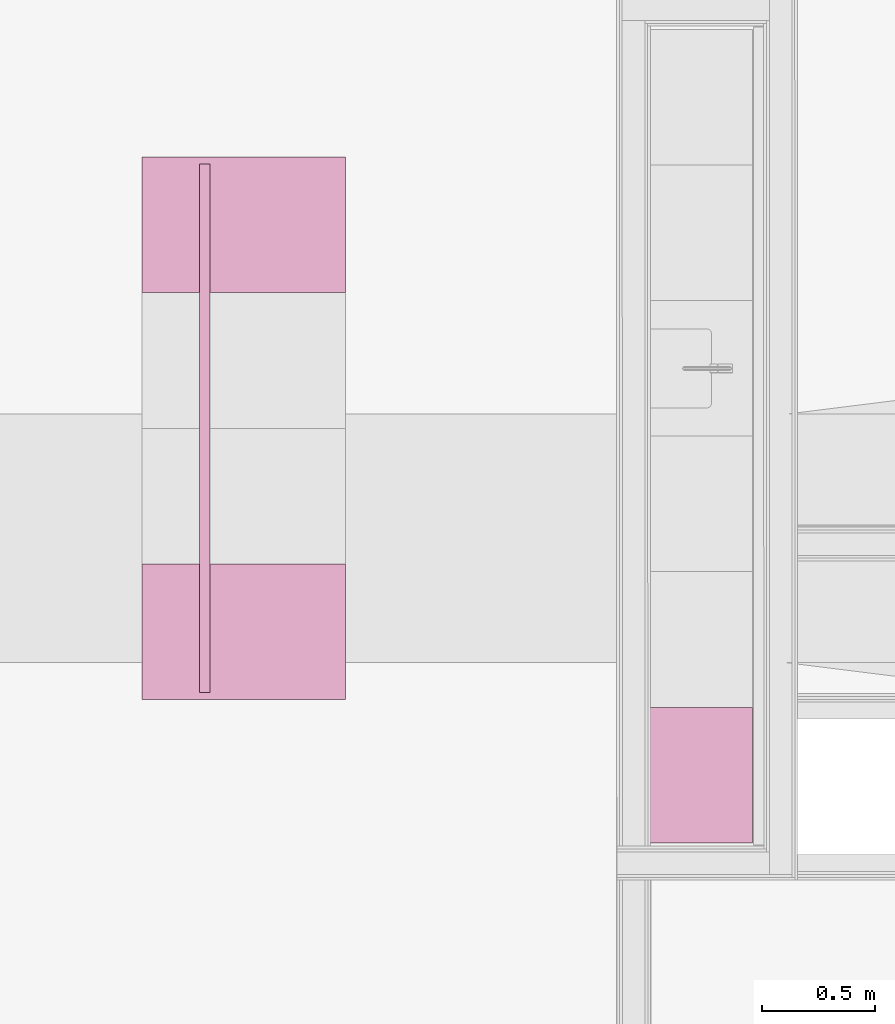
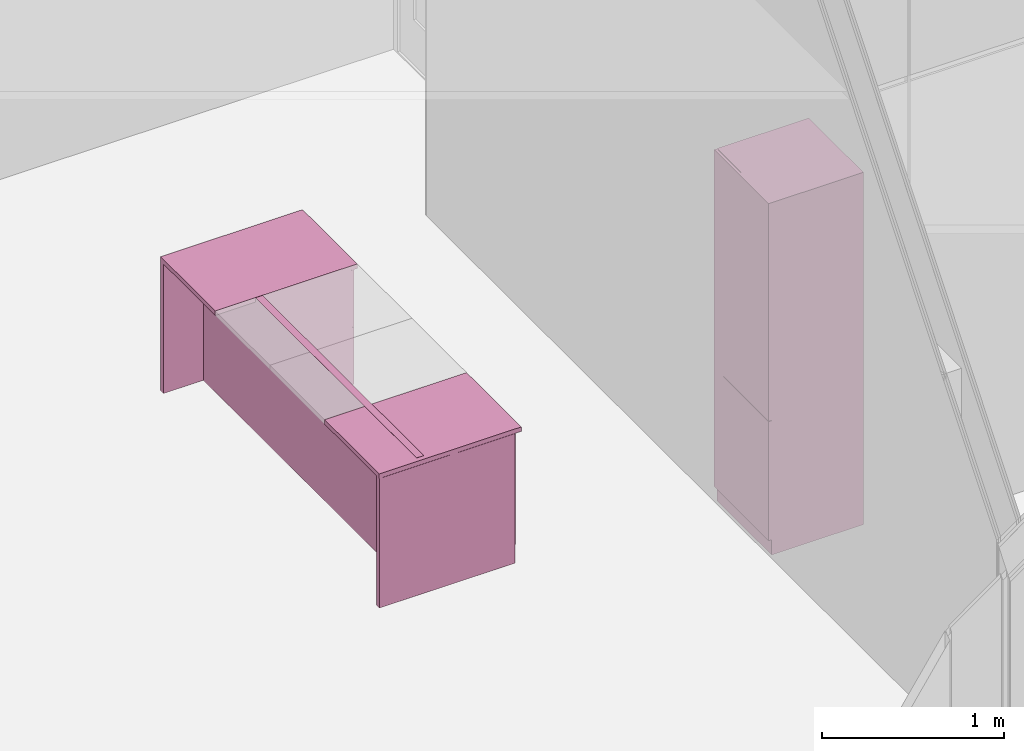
# One storey, part 92 of 94: 4 furnishings.
"""IFC2X3 building model written with IfcOpenShell, lengths in millimetres."""

import ifcopenshell
import ifcopenshell.guid

model = None  # the IFC model being written
_history = None  # IfcOwnerHistory: only IFC2X3 demands one
_inside = {}  # id of a spatial element -> (the spatial element, [elements in it])
_under = {}  # id of a project, library or spatial element -> (it, [spatial elements below it])
_declared = {}  # id of a project -> (the project, [libraries it declares])
_typed = {}  # id of a type object -> (the type object, [elements of that type])
_made_of = {}  # id of a material, layer set ... -> (it, [elements and type objects made of it])


def new_model(schema):
    """Start an empty IFC model of exactly this schema.

    Asked for "IFC4X3", IfcOpenShell would pick the latest addendum, in which some entities
    have other attributes; the version numbers below select the first issue.
    IFC2X3 requires an IfcOwnerHistory on every rooted entity: one is made here for all.
    """
    global model, _history
    if schema == "IFC4X3":
        model = ifcopenshell.file(schema_version=(4, 3, 0, 0))
    else:
        model = ifcopenshell.file(schema=schema)
    _inside.clear()
    _under.clear()
    _declared.clear()
    _typed.clear()
    _made_of.clear()
    _history = None
    if model.schema == "IFC2X3":
        org = make("IfcOrganization", Name="unknown")
        user = make(
            "IfcPersonAndOrganization",
            ThePerson=make("IfcPerson", FamilyName="unknown"),
            TheOrganization=org,
        )
        app = make(
            "IfcApplication",
            ApplicationDeveloper=org,
            Version="unknown",
            ApplicationFullName="unknown",
            ApplicationIdentifier="unknown",
        )
        _history = make(
            "IfcOwnerHistory",
            OwningUser=user,
            OwningApplication=app,
            ChangeAction="ADDED",
            CreationDate=0,
        )
    return model


def make(cls, **values):
    """One entity of the class cls with the attributes given. An attribute that is None is left unset."""
    return model.create_entity(
        cls, **{name: value for name, value in values.items() if value is not None}
    )


def entity(cls, *values):
    """Any entity or typed value of the class cls, its attributes in the order of the schema. None: left unset."""
    e = model.create_entity(cls)
    for i, value in enumerate(values):
        if value is not None:
            e[i] = value
    return e


def rooted(cls, **values):
    """An entity with a GlobalId (a new one), such as an element, a storey or a relation."""
    return make(cls, GlobalId=ifcopenshell.guid.new(), OwnerHistory=_history, **values)


def si_unit(unit_type, name, prefix=None):
    """IfcSIUnit, for example si_unit("LENGTHUNIT", "METRE", prefix="MILLI")."""
    return make("IfcSIUnit", UnitType=unit_type, Prefix=prefix, Name=name)


def converted_unit(unit_type, name, factor, base, dimensions=None, offset=None):
    """IfcConversionBasedUnit, such as the inch: factor (a typed value) times the base unit."""
    return make(
        "IfcConversionBasedUnit"
        if offset is None
        else "IfcConversionBasedUnitWithOffset",
        ConversionOffset=offset,
        Dimensions=None
        if dimensions is None
        else entity("IfcDimensionalExponents", *dimensions),
        UnitType=unit_type,
        Name=name,
        ConversionFactor=make(
            "IfcMeasureWithUnit", ValueComponent=factor, UnitComponent=base
        ),
    )


def derived_unit(unit_type, elements):
    """IfcDerivedUnit: a product of units, each with its exponent."""
    return make(
        "IfcDerivedUnit",
        Elements=[
            make("IfcDerivedUnitElement", Unit=unit, Exponent=power)
            for unit, power in elements
        ],
        UnitType=unit_type,
    )


def money_unit(currency):
    """IfcMonetaryUnit."""
    return make("IfcMonetaryUnit", Currency=currency)


def assignment(units):
    """IfcUnitAssignment: the units of a project."""
    return None if units is None else make("IfcUnitAssignment", Units=units)


def point(xyz):
    """IfcCartesianPoint."""
    return None if xyz is None else make("IfcCartesianPoint", Coordinates=xyz)


def direction(xyz):
    """IfcDirection."""
    return None if xyz is None else make("IfcDirection", DirectionRatios=xyz)


def frame(location, z_axis=None, x_axis=None):
    """IfcAxis2Placement3D, a coordinate frame: its origin and axes. An axis left out is left unset."""
    return make(
        "IfcAxis2Placement3D",
        Location=point(location),
        Axis=direction(z_axis),
        RefDirection=direction(x_axis),
    )


def origin_with_axes():
    """The frame at (0, 0, 0) with the z axis (0, 0, 1) and the x axis (1, 0, 0) written out."""
    return frame((0.0, 0.0, 0.0), z_axis=(0.0, 0.0, 1.0), x_axis=(1.0, 0.0, 0.0))


def place(relative_to, where):
    """IfcLocalPlacement: puts the frame where relative to a parent placement (None: the world)."""
    return make(
        "IfcLocalPlacement", PlacementRelTo=relative_to, RelativePlacement=where
    )


def context(
    kind, dimensions, precision=None, world=None, true_north=None, identifier=None
):
    """IfcGeometricRepresentationContext, for example the 3D "Model" context."""
    return make(
        "IfcGeometricRepresentationContext",
        ContextIdentifier=identifier,
        ContextType=kind,
        CoordinateSpaceDimension=dimensions,
        Precision=precision,
        WorldCoordinateSystem=world,
        TrueNorth=true_north,
    )


def subcontext(parent, identifier, kind, view, scale=None):
    """IfcGeometricRepresentationSubContext, for example "Body" below "Model"."""
    return make(
        "IfcGeometricRepresentationSubContext",
        ContextIdentifier=identifier,
        ContextType=kind,
        ParentContext=parent,
        TargetScale=scale,
        TargetView=view,
    )


def project(units=None, contexts=None):
    """IfcProject with its units and contexts."""
    return rooted(
        "IfcProject",
        Name="project",
        RepresentationContexts=contexts,
        UnitsInContext=assignment(units),
    )


def spatial(cls, under=None, at=None, **own):
    """A site, building, storey or space (cls), placed at a placement, below another one or the project."""
    s = rooted(cls, ObjectPlacement=at, **own)
    if under is not None:
        _under.setdefault(under.id(), (under, []))[1].append(s)
    return s


def faces_of(points, faces, orient=None, outer=None):
    """IfcFace entities. A face is a list of loops; a loop is a list of indices into points, from 0.

    orient and outer hold one flag for each loop. By default every Orientation is true, the
    first loop of a face is its IfcFaceOuterBound and the others are IfcFaceBound.
    """
    made = []
    for i, loops in enumerate(faces):
        bounds = []
        for j, loop in enumerate(loops):
            is_outer = j == 0 if outer is None else outer[i][j]
            bounds.append(
                make(
                    "IfcFaceOuterBound" if is_outer else "IfcFaceBound",
                    Bound=make("IfcPolyLoop", Polygon=[points[k] for k in loop]),
                    Orientation=True if orient is None else orient[i][j],
                )
            )
        made.append(make("IfcFace", Bounds=bounds))
    return made


def faceted_brep(points, faces, orient=None, outer=None, voids=None):
    """IfcFacetedBrep: a solid bounded by flat faces; with voids (closed shells), ...WithVoids."""
    shared = [point(p) for p in points]
    hull = make("IfcClosedShell", CfsFaces=faces_of(shared, faces, orient, outer))
    if voids is None:
        return make("IfcFacetedBrep", Outer=hull)
    return make(
        "IfcFacetedBrepWithVoids",
        Outer=hull,
        Voids=[
            make(cls, CfsFaces=faces_of(shared, fs, o, b)) for cls, fs, o, b in voids
        ],
    )


def shape(context_of_items, identifier, shape_type, items):
    """IfcShapeRepresentation: the items that make up one representation, for example the "Body"."""
    return make(
        "IfcShapeRepresentation",
        ContextOfItems=context_of_items,
        RepresentationIdentifier=identifier,
        RepresentationType=shape_type,
        Items=items,
    )


def made_of(thing, what):
    """Note that an element or type object is made of a material, layer set ...; save() writes the relation."""
    if what is not None:
        _made_of.setdefault(what.id(), (what, []))[1].append(thing)
    return thing


def type_object(cls, material=None, **own):
    """A type object (cls), such as IfcWallType, which elements share."""
    return made_of(rooted(cls, **own), material)


def element(
    cls,
    number,
    at=None,
    inside=None,
    cuts=None,
    type_object=None,
    material=None,
    context=None,
    identifier="Body",
    shape_type=None,
    held_by="IfcProductDefinitionShape",
    body=None,
    shapes=None,
    **own,
):
    """One element of the class cls, such as IfcWall. Its Tag is "e" and its number.

    at: its placement. inside: the storey or other place that contains it. cuts: it is an
    opening in that element (IfcRelVoidsElement). A single representation is given by context,
    identifier, shape_type and body (its items); several are given by shapes. held_by: the class
    of the entity that holds the representations. save() writes the other relations.
    """
    e = rooted(cls, Tag="e%d" % number, ObjectPlacement=at, **own)
    if body is not None:
        shapes = [shape(context, identifier, shape_type, body)]
    if shapes is not None:
        e.Representation = make(held_by, Representations=shapes)
    if inside is not None:
        _inside.setdefault(inside.id(), (inside, []))[1].append(e)
    if cuts is not None:
        rooted(
            "IfcRelVoidsElement", RelatingBuildingElement=cuts, RelatedOpeningElement=e
        )
    if type_object is not None:
        _typed.setdefault(type_object.id(), (type_object, []))[1].append(e)
    return made_of(e, material)


def aggregate(whole, parts):
    """IfcRelAggregates: a whole, such as a stair, and the parts it consists of."""
    return rooted("IfcRelAggregates", RelatingObject=whole, RelatedObjects=parts)


def save(model, path):
    """Write the relations noted so far, then the file.

    IfcRelAggregates (storeys below a building ...), IfcRelContainedInSpatialStructure (elements
    in a storey), IfcRelDefinesByType, IfcRelAssociatesMaterial and IfcRelDeclares: one each for
    every whole, place, type object, material and project.
    """
    for whole, parts in _under.values():
        aggregate(whole, parts)
    for where, things in _inside.values():
        rooted(
            "IfcRelContainedInSpatialStructure",
            RelatedElements=things,
            RelatingStructure=where,
        )
    for kind, things in _typed.values():
        rooted("IfcRelDefinesByType", RelatedObjects=things, RelatingType=kind)
    for what, things in _made_of.values():
        rooted("IfcRelAssociatesMaterial", RelatedObjects=things, RelatingMaterial=what)
    for by, libraries in _declared.values():
        rooted("IfcRelDeclares", RelatingContext=by, RelatedDefinitions=libraries)
    model.write(path)


model = new_model("IFC2X3")

# Units and contexts
model_context = context("Model", 3, precision=0.01, world=origin_with_axes(), true_north=direction((0.0, 1.0)))
body_context = subcontext(model_context, "Body", "Model", "MODEL_VIEW")
ifc_project = project(units=[si_unit("LENGTHUNIT", "METRE", prefix="MILLI"), si_unit("AREAUNIT", "SQUARE_METRE"), si_unit("VOLUMEUNIT", "CUBIC_METRE"), converted_unit("PLANEANGLEUNIT", "DEGREE", entity("IfcPlaneAngleMeasure", 0.0174532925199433), si_unit("PLANEANGLEUNIT", "RADIAN"), dimensions=[0, 0, 0, 0, 0, 0, 0]), money_unit("EUR"), converted_unit("TIMEUNIT", "Year", entity("IfcTimeMeasure", 31557600.0), si_unit("TIMEUNIT", "SECOND"), dimensions=[0, 0, 1, 0, 0, 0, 0]), si_unit("MASSUNIT", "GRAM", prefix="KILO"), si_unit("THERMODYNAMICTEMPERATUREUNIT", "DEGREE_CELSIUS"), si_unit("LUMINOUSINTENSITYUNIT", "LUMEN"), si_unit("ENERGYUNIT", "JOULE", prefix="MEGA"), derived_unit("THERMALCONDUCTANCEUNIT", [(si_unit("POWERUNIT", "WATT"), 1), (si_unit("LENGTHUNIT", "METRE"), -1), (si_unit("THERMODYNAMICTEMPERATUREUNIT", "KELVIN"), -1)]), derived_unit("SPECIFICHEATCAPACITYUNIT", [(si_unit("ENERGYUNIT", "JOULE"), 1), (si_unit("MASSUNIT", "GRAM", prefix="KILO"), -1), (si_unit("THERMODYNAMICTEMPERATUREUNIT", "KELVIN"), -1)]), derived_unit("MASSDENSITYUNIT", [(si_unit("MASSUNIT", "GRAM", prefix="KILO"), 1), (si_unit("VOLUMEUNIT", "CUBIC_METRE"), -1)])], contexts=[model_context])

# Site, building, storey
site_placement = place(None, origin_with_axes())
site = spatial("IfcSite", under=ifc_project, at=site_placement, Name="<site naam>", CompositionType="ELEMENT")
building_placement = place(site_placement, origin_with_axes())
building = spatial("IfcBuilding", under=site, at=building_placement, Name="<Naam gebouw>", CompositionType="ELEMENT")
storey_placement = place(building_placement, frame((0.0, 0.0, 4250.0), z_axis=(0.0, 0.0, 1.0), x_axis=(1.0, 0.0, 0.0)))
storey = spatial("IfcBuildingStorey", under=building, at=storey_placement, Name="01 1e verdieping", CompositionType="ELEMENT", Elevation=4250.0)

# Furnishings
furnishing_element_type_1 = type_object("IfcFurnishingElementType", Name="Kubus 27")
furnishing_1_placement = place(storey_placement, frame((-2597.463482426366, 17657.49996934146, 0.0), z_axis=(0.0, 0.0, 1.0), x_axis=(0.0, -1.0, 0.0)))
element("IfcFurnishingElement", 1, at=furnishing_1_placement, inside=storey, type_object=furnishing_element_type_1, Name="73_Brandslanghaspelkast_Lege", context=body_context, shape_type="Brep", body=[
    faceted_brep([(2340.000000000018, 0.0, 0.0), (0.0, 0.0, 0.0), (0.0, 45.73177089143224, 0.0), (2340.000000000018, 45.73177089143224, 0.0), (2340.000000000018, 0.0, 900.0), (0.0, 0.0, 900.0), (0.0, 45.73177089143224, 900.0), (2340.000000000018, 45.73177089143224, 900.0)], [[[0, 1, 2, 3]], [[1, 0, 4, 5]], [[2, 1, 5, 6]], [[3, 2, 6, 7]], [[0, 3, 7, 4]], [[5, 4, 7, 6]]]),
])
furnishing_element_type_2 = type_object("IfcFurnishingElementType", Name="Onderkast recht 27")
furnishing_2_placement = place(storey_placement, frame((-2851.731711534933, 15287.49996934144, 0.0), z_axis=(0.0, 0.0, 1.0), x_axis=(0.0, 1.0, 0.0)))
element("IfcFurnishingElement", 2, at=furnishing_2_placement, inside=storey, type_object=furnishing_element_type_2, Name="73_Brandslanghaspelkast_Lege", context=body_context, shape_type="Brep", body=[
    faceted_brep([(0.0, -900.0000000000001, 870.0), (600.0, -900.0000000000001, 870.0), (600.0, -900.0000000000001, 900.0), (0.0, -900.0000000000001, 900.0), (0.0, 0.0, 870.0), (600.0, 0.0, 870.0), (600.0, 0.0, 900.0), (0.0, 0.0, 900.0)], [[[0, 1, 2, 3]], [[0, 4, 5, 1]], [[1, 5, 6, 2]], [[3, 2, 6, 7]], [[4, 0, 3, 7]], [[5, 4, 7, 6]]]),
    faceted_brep([(48.0, -862.0000000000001, 476.0), (582.0, -862.0000000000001, 476.0), (582.0, -862.0000000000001, 494.0), (48.0, -862.0000000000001, 494.0), (48.0, -318.0, 476.0), (582.0, -318.0, 476.0), (582.0, -318.0, 494.0), (48.0, -318.0, 494.0)], [[[0, 1, 2, 3]], [[0, 4, 5, 1]], [[1, 5, 6, 2]], [[3, 2, 6, 7]], [[4, 0, 3, 7]], [[5, 4, 7, 6]]]),
    faceted_brep([(31.0, -862.0000000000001, 101.0), (599.0, -862.0000000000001, 101.0), (599.0, -880.0000000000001, 101.0), (31.0, -880.0000000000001, 101.0), (31.0, -862.0000000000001, 484.0), (599.0, -862.0000000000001, 484.0), (599.0, -880.0000000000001, 484.0), (31.0, -880.0000000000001, 484.0)], [[[0, 1, 2, 3]], [[0, 4, 5, 1]], [[1, 5, 6, 2]], [[3, 2, 6, 7]], [[4, 0, 3, 7]], [[5, 4, 7, 6]]]),
    faceted_brep([(31.0, -862.0000000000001, 486.0), (599.0, -862.0000000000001, 486.0), (599.0, -880.0000000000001, 486.0), (31.0, -880.0000000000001, 486.0), (31.0, -862.0000000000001, 869.0), (599.0, -862.0000000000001, 869.0), (599.0, -880.0000000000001, 869.0), (31.0, -880.0000000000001, 869.0)], [[[0, 1, 2, 3]], [[0, 4, 5, 1]], [[1, 5, 6, 2]], [[3, 2, 6, 7]], [[4, 0, 3, 7]], [[5, 4, 7, 6]]]),
    faceted_brep([(30.0, -1.0, 1.0), (30.0, -861.0000000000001, 1.0), (0.0, -861.0000000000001, 1.000000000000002), (0.0, -1.0, 1.000000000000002), (30.00000000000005, -1.0, 869.0), (30.00000000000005, -861.0000000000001, 869.0), (0.0, -861.0000000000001, 869.0), (0.0, -1.0, 869.0)], [[[0, 1, 2, 3]], [[0, 4, 5, 1]], [[1, 5, 6, 2]], [[3, 2, 6, 7]], [[4, 0, 3, 7]], [[5, 4, 7, 6]]]),
    faceted_brep([(48.0, -862.0000000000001, 100.0), (582.0, -862.0000000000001, 100.0), (582.0, -862.0000000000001, 118.0), (48.0, -862.0000000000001, 118.0), (48.0, -300.0, 100.0), (582.0, -300.0, 100.0), (582.0, -300.0, 118.0), (48.0, -300.0, 118.0)], [[[0, 1, 2, 3]], [[0, 4, 5, 1]], [[1, 5, 6, 2]], [[3, 2, 6, 7]], [[4, 0, 3, 7]], [[5, 4, 7, 6]]]),
    faceted_brep([(48.0, -862.0000000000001, 852.0), (48.0, -802.0, 852.0), (582.0, -802.0, 852.0), (582.0, -862.0000000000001, 852.0), (48.0, -862.0000000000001, 870.0), (48.0, -802.0, 870.0), (582.0, -802.0, 870.0), (582.0, -862.0000000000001, 870.0)], [[[0, 1, 2, 3]], [[0, 4, 5, 1]], [[1, 5, 6, 2]], [[3, 2, 6, 7]], [[4, 0, 3, 7]], [[5, 4, 7, 6]]]),
    faceted_brep([(582.0, -300.0, 852.0), (582.0, -360.0, 852.0), (48.0, -360.0, 852.0), (48.0, -300.0, 852.0), (582.0, -300.0, 870.0), (582.0, -360.0, 870.0), (48.0, -360.0, 870.0), (48.0, -300.0, 870.0)], [[[0, 1, 2, 3]], [[0, 4, 5, 1]], [[1, 5, 6, 2]], [[3, 2, 6, 7]], [[4, 0, 3, 7]], [[5, 4, 7, 6]]]),
    faceted_brep([(30.0, -300.0, 100.0), (30.0, -862.0000000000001, 100.0), (30.0, -862.0000000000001, 870.0), (30.0, -300.0, 870.0), (48.0, -300.0, 100.0), (48.0, -862.0000000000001, 100.0), (48.0, -862.0000000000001, 870.0), (48.0, -300.0, 870.0)], [[[0, 1, 2, 3]], [[0, 4, 5, 1]], [[1, 5, 6, 2]], [[3, 2, 6, 7]], [[4, 0, 3, 7]], [[5, 4, 7, 6]]]),
    faceted_brep([(600.0, -862.0000000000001, 100.0), (600.0, -300.0000000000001, 100.0), (600.0, -300.0000000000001, 870.0), (600.0, -862.0000000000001, 870.0), (582.0, -862.0000000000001, 100.0), (582.0, -300.0000000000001, 100.0), (582.0, -300.0000000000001, 870.0), (582.0, -862.0000000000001, 870.0)], [[[0, 1, 2, 3]], [[0, 4, 5, 1]], [[1, 5, 6, 2]], [[3, 2, 6, 7]], [[4, 0, 3, 7]], [[5, 4, 7, 6]]]),
    faceted_brep([(582.0, -309.0, 118.0), (48.00000000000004, -309.0, 118.0), (48.00000000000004, -309.0, 852.0), (582.0, -309.0, 852.0), (582.0, -318.0, 118.0), (48.00000000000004, -318.0, 118.0), (48.00000000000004, -318.0, 852.0), (582.0, -318.0, 852.0)], [[[0, 1, 2, 3]], [[0, 4, 5, 1]], [[1, 5, 6, 2]], [[3, 2, 6, 7]], [[4, 0, 3, 7]], [[5, 4, 7, 6]]]),
    faceted_brep([(30.0, -862.0000000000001, 0.0), (600.0, -862.0000000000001, 0.0), (600.0, -862.0000000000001, 100.0), (30.0, -862.0000000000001, 100.0), (30.0, -300.0, 0.0), (600.0, -300.0, 0.0), (600.0, -300.0, 100.0), (30.0, -300.0, 100.0)], [[[0, 1, 2, 3]], [[0, 4, 5, 1]], [[1, 5, 6, 2]], [[3, 2, 6, 7]], [[4, 0, 3, 7]], [[5, 4, 7, 6]]]),
])
furnishing_3_placement = place(storey_placement, frame((-2851.731711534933, 17087.49996934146, 0.3698651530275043), z_axis=(0.0, 0.0, 1.0), x_axis=(0.0, 1.0, 0.0)))
element("IfcFurnishingElement", 3, at=furnishing_3_placement, inside=storey, type_object=furnishing_element_type_2, Name="73_Brandslanghaspelkast_Lege", context=body_context, shape_type="Brep", body=[
    faceted_brep([(0.0, -900.0000000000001, 870.0), (600.0, -900.0000000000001, 870.0), (600.0, -900.0000000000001, 900.0), (0.0, -900.0000000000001, 900.0), (0.0, 0.0, 870.0), (600.0, 0.0, 870.0), (600.0, 0.0, 900.0), (0.0, 0.0, 900.0)], [[[0, 1, 2, 3]], [[0, 4, 5, 1]], [[1, 5, 6, 2]], [[3, 2, 6, 7]], [[4, 0, 3, 7]], [[5, 4, 7, 6]]]),
    faceted_brep([(18.0, -862.0000000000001, 476.0), (551.9999999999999, -862.0000000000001, 476.0), (551.9999999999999, -862.0000000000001, 494.0), (18.0, -862.0000000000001, 494.0), (18.0, -318.0, 476.0), (551.9999999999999, -318.0, 476.0), (551.9999999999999, -318.0, 494.0), (18.0, -318.0, 494.0)], [[[0, 1, 2, 3]], [[0, 4, 5, 1]], [[1, 5, 6, 2]], [[3, 2, 6, 7]], [[4, 0, 3, 7]], [[5, 4, 7, 6]]]),
    faceted_brep([(1.0, -862.0000000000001, 101.0), (569.0, -862.0000000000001, 101.0), (569.0, -880.0000000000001, 101.0), (1.0, -880.0000000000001, 101.0), (1.0, -862.0000000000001, 484.0), (569.0, -862.0000000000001, 484.0), (569.0, -880.0000000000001, 484.0), (1.0, -880.0000000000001, 484.0)], [[[0, 1, 2, 3]], [[0, 4, 5, 1]], [[1, 5, 6, 2]], [[3, 2, 6, 7]], [[4, 0, 3, 7]], [[5, 4, 7, 6]]]),
    faceted_brep([(1.0, -862.0000000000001, 486.0), (569.0, -862.0000000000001, 486.0), (569.0, -880.0000000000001, 486.0), (1.0, -880.0000000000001, 486.0), (1.0, -862.0000000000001, 869.0), (569.0, -862.0000000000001, 869.0), (569.0, -880.0000000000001, 869.0), (1.0, -880.0000000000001, 869.0)], [[[0, 1, 2, 3]], [[0, 4, 5, 1]], [[1, 5, 6, 2]], [[3, 2, 6, 7]], [[4, 0, 3, 7]], [[5, 4, 7, 6]]]),
    faceted_brep([(570.0, -861.0000000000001, 1.0), (570.0, -1.000000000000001, 1.0), (600.0, -1.000000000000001, 1.000000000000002), (600.0, -861.0000000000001, 1.000000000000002), (570.0, -861.0000000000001, 869.0), (570.0, -1.000000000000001, 869.0), (599.9999999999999, -1.000000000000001, 869.0), (599.9999999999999, -861.0000000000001, 869.0)], [[[0, 1, 2, 3]], [[0, 4, 5, 1]], [[1, 5, 6, 2]], [[3, 2, 6, 7]], [[4, 0, 3, 7]], [[5, 4, 7, 6]]]),
    faceted_brep([(18.0, -862.0000000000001, 100.0), (551.9999999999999, -862.0000000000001, 100.0), (551.9999999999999, -862.0000000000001, 118.0), (18.0, -862.0000000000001, 118.0), (18.0, -300.0, 100.0), (551.9999999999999, -300.0, 100.0), (551.9999999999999, -300.0, 118.0), (18.0, -300.0, 118.0)], [[[0, 1, 2, 3]], [[0, 4, 5, 1]], [[1, 5, 6, 2]], [[3, 2, 6, 7]], [[4, 0, 3, 7]], [[5, 4, 7, 6]]]),
    faceted_brep([(18.0, -862.0000000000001, 852.0), (18.0, -802.0, 852.0), (551.9999999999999, -802.0, 852.0), (551.9999999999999, -862.0000000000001, 852.0), (18.0, -862.0000000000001, 870.0), (18.0, -802.0, 870.0), (551.9999999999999, -802.0, 870.0), (551.9999999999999, -862.0000000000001, 870.0)], [[[0, 1, 2, 3]], [[0, 4, 5, 1]], [[1, 5, 6, 2]], [[3, 2, 6, 7]], [[4, 0, 3, 7]], [[5, 4, 7, 6]]]),
    faceted_brep([(551.9999999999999, -300.0, 852.0), (551.9999999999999, -360.0, 852.0), (18.0, -360.0, 852.0), (18.0, -300.0, 852.0), (551.9999999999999, -300.0, 870.0), (551.9999999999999, -360.0, 870.0), (18.0, -360.0, 870.0), (18.0, -300.0, 870.0)], [[[0, 1, 2, 3]], [[0, 4, 5, 1]], [[1, 5, 6, 2]], [[3, 2, 6, 7]], [[4, 0, 3, 7]], [[5, 4, 7, 6]]]),
    faceted_brep([(0.0, -300.0, 100.0), (0.0, -862.0000000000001, 100.0), (0.0, -862.0000000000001, 870.0), (0.0, -300.0, 870.0), (18.0, -300.0, 100.0), (18.0, -862.0000000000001, 100.0), (18.0, -862.0000000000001, 870.0), (18.0, -300.0, 870.0)], [[[0, 1, 2, 3]], [[0, 4, 5, 1]], [[1, 5, 6, 2]], [[3, 2, 6, 7]], [[4, 0, 3, 7]], [[5, 4, 7, 6]]]),
    faceted_brep([(570.0, -862.0000000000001, 100.0), (570.0, -300.0000000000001, 100.0), (570.0, -300.0000000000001, 870.0), (570.0, -862.0000000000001, 870.0), (551.9999999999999, -862.0000000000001, 100.0), (551.9999999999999, -300.0000000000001, 100.0), (551.9999999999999, -300.0000000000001, 870.0), (551.9999999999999, -862.0000000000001, 870.0)], [[[0, 1, 2, 3]], [[0, 4, 5, 1]], [[1, 5, 6, 2]], [[3, 2, 6, 7]], [[4, 0, 3, 7]], [[5, 4, 7, 6]]]),
    faceted_brep([(551.9999999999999, -309.0, 118.0), (18.00000000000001, -309.0, 118.0), (18.00000000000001, -309.0, 852.0), (551.9999999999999, -309.0, 852.0), (551.9999999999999, -318.0, 118.0), (18.00000000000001, -318.0, 118.0), (18.00000000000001, -318.0, 852.0), (551.9999999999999, -318.0, 852.0)], [[[0, 1, 2, 3]], [[0, 4, 5, 1]], [[1, 5, 6, 2]], [[3, 2, 6, 7]], [[4, 0, 3, 7]], [[5, 4, 7, 6]]]),
    faceted_brep([(0.0, -862.0000000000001, 0.0), (570.0, -862.0000000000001, 0.0), (570.0, -862.0000000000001, 100.0), (0.0, -862.0000000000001, 100.0), (0.0, -300.0, 0.0), (570.0, -300.0, 0.0), (570.0, -300.0, 100.0), (0.0, -300.0, 100.0)], [[[0, 1, 2, 3]], [[0, 4, 5, 1]], [[1, 5, 6, 2]], [[3, 2, 6, 7]], [[4, 0, 3, 7]], [[5, 4, 7, 6]]]),
])
furnishing_element_type_3 = type_object("IfcFurnishingElementType", Name="Hoge kast recht 27")
furnishing_4_placement = place(storey_placement, frame((-149.999999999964, 15252.49996934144, 0.0), z_axis=(0.0, 0.0, 1.0), x_axis=(0.0, -1.0, 0.0)))
element("IfcFurnishingElement", 4, at=furnishing_4_placement, inside=storey, type_object=furnishing_element_type_3, Name="73_Brandslanghaspelkast_Lege", context=body_context, shape_type="Brep", body=[
    faceted_brep([(18.0, -582.0, 891.0), (582.0, -582.0, 891.0), (582.0, -582.0, 909.0), (18.0, -582.0, 909.0), (18.0, -18.0, 891.0), (582.0, -18.0, 891.0), (582.0, -18.0, 909.0), (18.0, -18.0, 909.0)], [[[0, 1, 2, 3]], [[0, 4, 5, 1]], [[1, 5, 6, 2]], [[3, 2, 6, 7]], [[4, 0, 3, 7]], [[5, 4, 7, 6]]]),
    faceted_brep([(1.0, -582.0, 101.0), (599.0, -582.0, 101.0), (599.0, -600.0, 101.0), (1.0, -600.0, 101.0), (1.0, -582.0, 899.0), (599.0, -582.0, 899.0), (599.0, -599.9999999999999, 899.0), (1.0, -599.9999999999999, 899.0)], [[[0, 1, 2, 3]], [[0, 4, 5, 1]], [[1, 5, 6, 2]], [[3, 2, 6, 7]], [[4, 0, 3, 7]], [[5, 4, 7, 6]]]),
    faceted_brep([(1.0, -582.0, 901.0), (599.0, -582.0, 901.0), (599.0, -600.0, 901.0), (1.0, -600.0, 901.0), (1.0, -581.9999999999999, 2359.0), (599.0, -581.9999999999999, 2359.0), (599.0, -599.9999999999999, 2359.0), (1.0, -599.9999999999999, 2359.0)], [[[0, 1, 2, 3]], [[0, 4, 5, 1]], [[1, 5, 6, 2]], [[3, 2, 6, 7]], [[4, 0, 3, 7]], [[5, 4, 7, 6]]]),
    faceted_brep([(18.0, -582.0, 100.0), (582.0, -582.0, 100.0), (582.0, -582.0, 118.0), (18.0, -582.0, 118.0), (18.0, 0.0, 100.0), (582.0, 0.0, 100.0), (582.0, 0.0, 118.0), (18.0, 0.0, 118.0)], [[[0, 1, 2, 3]], [[0, 4, 5, 1]], [[1, 5, 6, 2]], [[3, 2, 6, 7]], [[4, 0, 3, 7]], [[5, 4, 7, 6]]]),
    faceted_brep([(18.0, -582.0, 2342.0), (582.0, -582.0, 2342.0), (582.0, -582.0, 2360.0), (18.0, -582.0, 2360.0), (18.0, 0.0, 2342.0), (582.0, 0.0, 2342.0), (582.0, 0.0, 2360.0), (18.0, 0.0, 2360.0)], [[[0, 1, 2, 3]], [[0, 4, 5, 1]], [[1, 5, 6, 2]], [[3, 2, 6, 7]], [[4, 0, 3, 7]], [[5, 4, 7, 6]]]),
    faceted_brep([(0.0, 0.0, 100.0), (0.0, -582.0, 100.0), (0.0, -582.0, 2360.0), (0.0, 0.0, 2360.0), (18.0, 0.0, 100.0), (18.0, -582.0, 100.0), (18.0, -582.0, 2360.0), (18.0, 0.0, 2360.0)], [[[0, 1, 2, 3]], [[0, 4, 5, 1]], [[1, 5, 6, 2]], [[3, 2, 6, 7]], [[4, 0, 3, 7]], [[5, 4, 7, 6]]]),
    faceted_brep([(600.0, -582.0, 100.0), (600.0, 0.0, 100.0), (600.0, 0.0, 2360.0), (600.0, -582.0, 2360.0), (582.0, -582.0, 100.0), (582.0, 0.0, 100.0), (582.0, 0.0, 2360.0), (582.0, -582.0, 2360.0)], [[[0, 1, 2, 3]], [[0, 4, 5, 1]], [[1, 5, 6, 2]], [[3, 2, 6, 7]], [[4, 0, 3, 7]], [[5, 4, 7, 6]]]),
    faceted_brep([(582.0, -9.0, 118.0), (18.00000000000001, -9.0, 118.0), (18.00000000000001, -9.0, 2342.0), (582.0, -9.0, 2342.0), (582.0, -18.0, 118.0), (18.00000000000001, -18.0, 118.0), (18.00000000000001, -18.0, 2342.0), (582.0, -18.0, 2342.0)], [[[0, 1, 2, 3]], [[0, 4, 5, 1]], [[1, 5, 6, 2]], [[3, 2, 6, 7]], [[4, 0, 3, 7]], [[5, 4, 7, 6]]]),
    faceted_brep([(0.0, -582.0, 0.0), (600.0, -582.0, 0.0), (600.0, -582.0, 100.0), (0.0, -582.0, 100.0), (0.0, 0.0, 0.0), (600.0, 0.0, 0.0), (600.0, 0.0, 100.0), (0.0, 0.0, 100.0)], [[[0, 1, 2, 3]], [[0, 4, 5, 1]], [[1, 5, 6, 2]], [[3, 2, 6, 7]], [[4, 0, 3, 7]], [[5, 4, 7, 6]]]),
])

save(model, "model.ifc")
